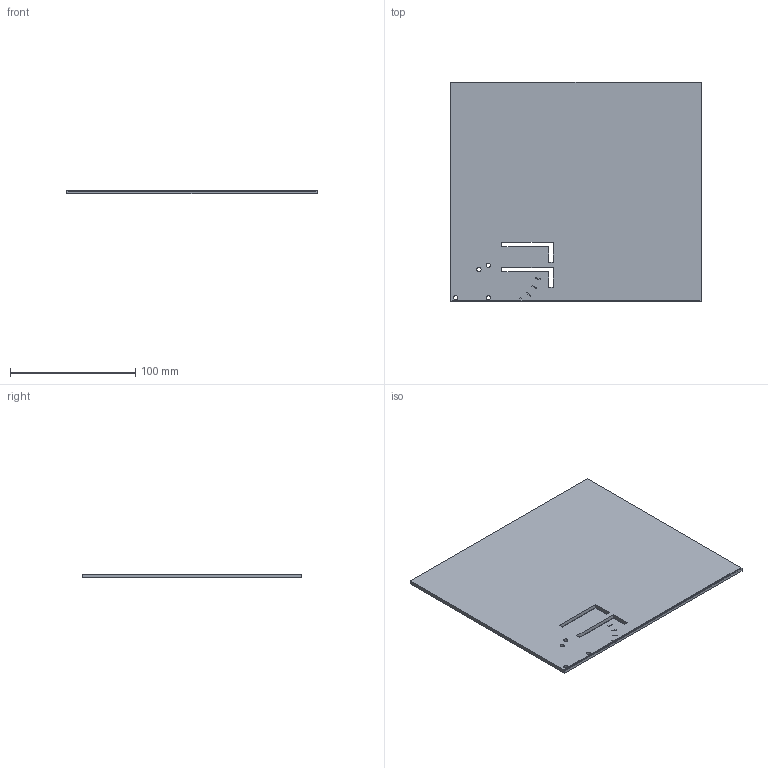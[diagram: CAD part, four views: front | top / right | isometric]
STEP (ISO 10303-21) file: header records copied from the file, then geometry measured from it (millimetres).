
FILE_DESCRIPTION(('Open CASCADE Model'),'2;1');
FILE_NAME('F08-CARD','2026-11-15T22:32:29',('Author'),('Open CASCADE'), 'Open CASCADE STEP processor 8.0','build123d','Unknown');
FILE_SCHEMA(('AUTOMOTIVE_DESIGN { 1 0 10303 214 1 1 1 1 }'));
Length unit declared in the file: millimetre
Products named in the file (1): F08-CARD
Bounding box: 200 x 175 x 3 mm (x, y, z)
Volume: 103650 mm3; surface area: 72647.5 mm2
Topology: 1 solids, 1 shells, 54 faces, 147 edges, 98 vertices
Faces by surface type: plane 50, cylinder 4
Full cylindrical faces by diameter (mm): 3.3 x1, 3.4 x3
Entity records: 3521 total; most frequent: CARTESIAN_POINT 697, DIRECTION 456, LINE 322, VECTOR 322, ORIENTED_EDGE 294, PCURVE 294, DEFINITIONAL_REPRESENTATION 294, EDGE_CURVE 147
